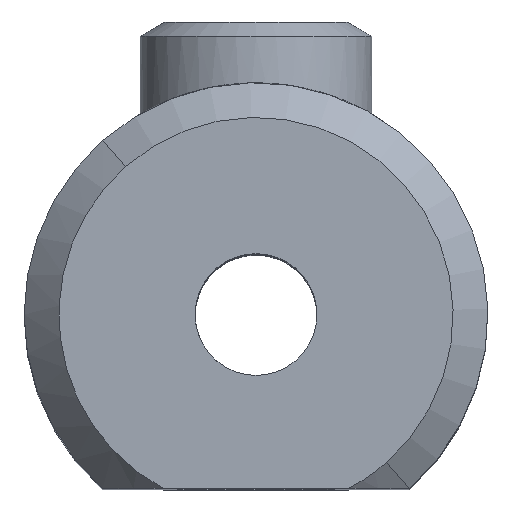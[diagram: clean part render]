
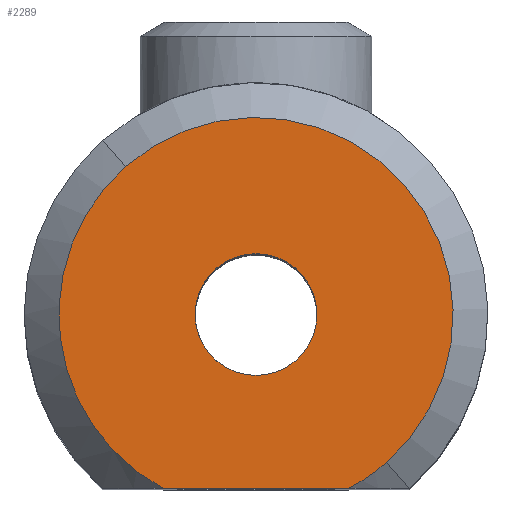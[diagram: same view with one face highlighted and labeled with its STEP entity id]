
A CAD part, top view. The second image highlights one B-rep face of the part: STEP entity #2289.
In plain terms, the highlighted planar face has unit normal (0, 0, 1).
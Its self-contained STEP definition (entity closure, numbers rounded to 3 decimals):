
#188=CARTESIAN_POINT('',(-1.05,0.,0.0));
#189=VERTEX_POINT('',#188);
#219=CARTESIAN_POINT('',(1.05,0.,0.0));
#220=VERTEX_POINT('',#219);
#227=CARTESIAN_POINT('',(0.0,0.0,0.0));
#228=DIRECTION('',(0.0,0.0,-1.0));
#229=DIRECTION('',(-1.0,0.0,0.0));
#230=AXIS2_PLACEMENT_3D('',#227,#228,#229);
#231=CIRCLE('',#230,1.05);
#232=EDGE_CURVE('',#189,#220,#231,.T.);
#486=CARTESIAN_POINT('',(2.249,-2.55,0.0));
#487=VERTEX_POINT('',#486);
#496=CARTESIAN_POINT('',(1.6,-3.,0.0));
#497=VERTEX_POINT('',#496);
#498=CARTESIAN_POINT('',(0.0,0.0,0.0));
#499=DIRECTION('',(0.0,0.0,-1.0));
#500=DIRECTION('',(-0.661,0.75,0.0));
#501=AXIS2_PLACEMENT_3D('',#498,#499,#500);
#502=CIRCLE('',#501,3.4);
#503=EDGE_CURVE('',#487,#497,#502,.T.);
#528=CARTESIAN_POINT('',(-2.249,2.55,0.0));
#529=VERTEX_POINT('',#528);
#545=CARTESIAN_POINT('',(-1.6,-3.,0.0));
#546=VERTEX_POINT('',#545);
#560=CARTESIAN_POINT('',(0.0,0.0,0.0));
#561=DIRECTION('',(0.0,0.0,-1.0));
#562=DIRECTION('',(-0.661,0.75,0.0));
#563=AXIS2_PLACEMENT_3D('',#560,#561,#562);
#564=CIRCLE('',#563,3.4);
#565=EDGE_CURVE('',#546,#529,#564,.T.);
#2040=CARTESIAN_POINT('',(-1.6,-3.,0.0));
#2041=DIRECTION('',(1.0,0.0,0.0));
#2042=VECTOR('',#2041,3.2);
#2043=LINE('',#2040,#2042);
#2044=EDGE_CURVE('',#546,#497,#2043,.T.);
#2084=CARTESIAN_POINT('',(0.0,0.0,0.0));
#2085=DIRECTION('',(0.0,0.0,-1.0));
#2086=DIRECTION('',(-0.661,0.75,0.0));
#2087=AXIS2_PLACEMENT_3D('',#2084,#2085,#2086);
#2088=CIRCLE('',#2087,3.4);
#2089=EDGE_CURVE('',#529,#487,#2088,.T.);
#2228=CARTESIAN_POINT('',(0.0,0.0,0.0));
#2229=DIRECTION('',(0.0,0.0,-1.0));
#2230=DIRECTION('',(-1.0,0.0,0.0));
#2231=AXIS2_PLACEMENT_3D('',#2228,#2229,#2230);
#2232=CIRCLE('',#2231,1.05);
#2233=EDGE_CURVE('',#220,#189,#2232,.T.);
#2274=CARTESIAN_POINT('',(0.,-0.093,0.0));
#2275=DIRECTION('',(0.0,0.0,1.0));
#2276=DIRECTION('',(1.0,0.0,0.0));
#2277=AXIS2_PLACEMENT_3D('',#2274,#2275,#2276);
#2278=PLANE('',#2277);
#2279=ORIENTED_EDGE('',*,*,#565,.F.);
#2280=ORIENTED_EDGE('',*,*,#2044,.T.);
#2281=ORIENTED_EDGE('',*,*,#503,.F.);
#2282=ORIENTED_EDGE('',*,*,#2089,.F.);
#2283=EDGE_LOOP('',(#2279,#2280,#2281,#2282));
#2284=FACE_OUTER_BOUND('',#2283,.T.);
#2285=ORIENTED_EDGE('',*,*,#2233,.T.);
#2286=ORIENTED_EDGE('',*,*,#232,.T.);
#2287=EDGE_LOOP('',(#2285,#2286));
#2288=FACE_BOUND('',#2287,.T.);
#2289=ADVANCED_FACE('',(#2284,#2288),#2278,.T.);
